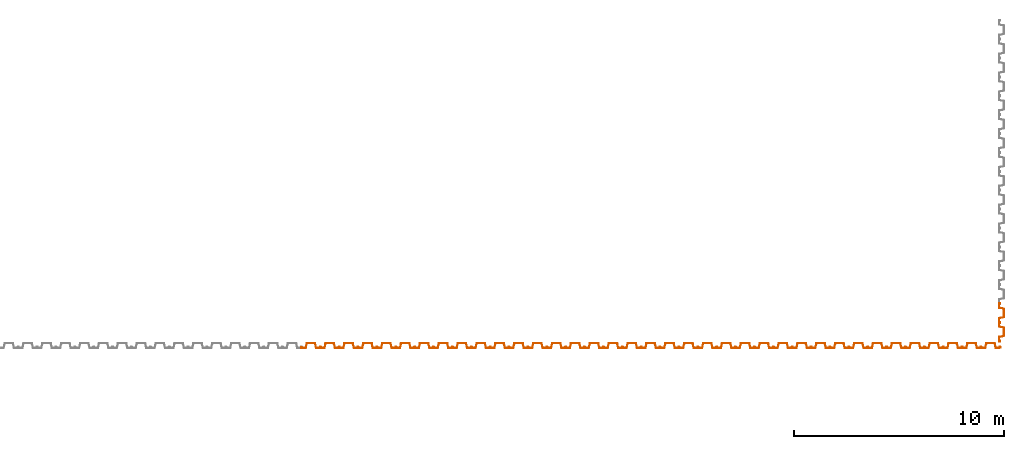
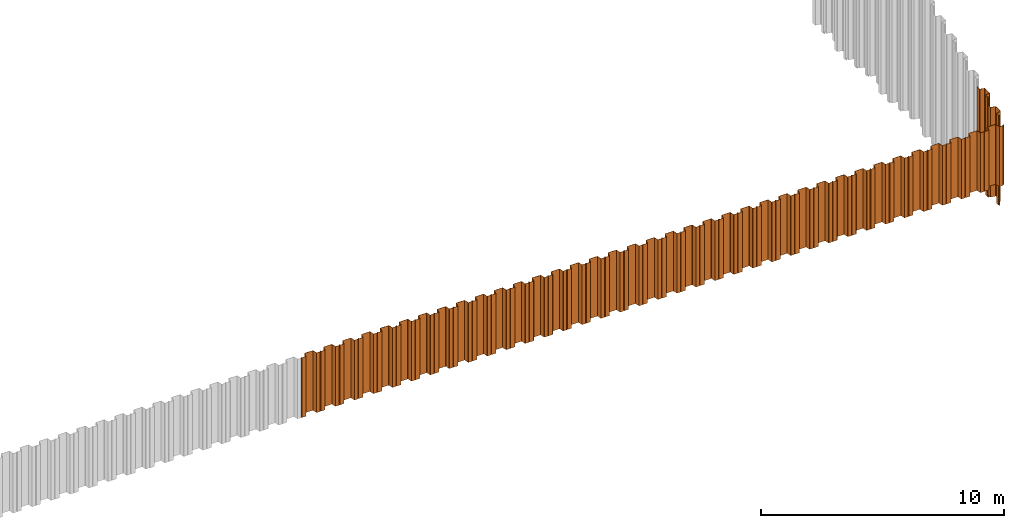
# One storey, part 8 of 12: 39 proxies.
"""IFC2X3 building model written with IfcOpenShell, lengths in millimetres."""

from ifc_helpers import new_model, entity, si_unit, converted_unit, derived_unit, direction, frame, frame_2d, origin, place, context, subcontext, project, spatial, polyline, circle_curve, parameter, trimmed, segment, composite_curve, outline, extrude, source, transform, mapped, material, type_object, type_shapes, element, save


model = new_model("IFC2X3")

# Units and contexts
model_context = context("Model", 3, precision=0.01, world=origin(), true_north=direction((6.12303176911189e-17, 1.0)))
body_context = subcontext(model_context, "Body", "Model", "MODEL_VIEW")
ifc_project = project(units=[si_unit("LENGTHUNIT", "METRE", prefix="MILLI"), si_unit("AREAUNIT", "SQUARE_METRE"), si_unit("VOLUMEUNIT", "CUBIC_METRE"), converted_unit("PLANEANGLEUNIT", "DEGREE", entity("IfcRatioMeasure", 0.0174532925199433), si_unit("PLANEANGLEUNIT", "RADIAN"), dimensions=[0, 0, 0, 0, 0, 0, 0]), si_unit("MASSUNIT", "GRAM", prefix="KILO"), derived_unit("MASSDENSITYUNIT", [(si_unit("MASSUNIT", "GRAM", prefix="KILO"), 1), (si_unit("LENGTHUNIT", "METRE"), -3)]), derived_unit("MOMENTOFINERTIAUNIT", [(si_unit("LENGTHUNIT", "METRE"), 4)]), si_unit("TIMEUNIT", "SECOND"), si_unit("FREQUENCYUNIT", "HERTZ"), si_unit("THERMODYNAMICTEMPERATUREUNIT", "DEGREE_CELSIUS"), derived_unit("THERMALTRANSMITTANCEUNIT", [(si_unit("MASSUNIT", "GRAM", prefix="KILO"), 1), (si_unit("THERMODYNAMICTEMPERATUREUNIT", "KELVIN"), -1), (si_unit("TIMEUNIT", "SECOND"), -3)]), derived_unit("VOLUMETRICFLOWRATEUNIT", [(si_unit("LENGTHUNIT", "METRE"), 3), (si_unit("TIMEUNIT", "SECOND"), -1)]), si_unit("ELECTRICCURRENTUNIT", "AMPERE"), si_unit("ELECTRICVOLTAGEUNIT", "VOLT"), si_unit("POWERUNIT", "WATT"), si_unit("FORCEUNIT", "NEWTON", prefix="KILO"), si_unit("ILLUMINANCEUNIT", "LUX"), si_unit("LUMINOUSFLUXUNIT", "LUMEN"), si_unit("LUMINOUSINTENSITYUNIT", "CANDELA"), derived_unit("USERDEFINED", [(si_unit("MASSUNIT", "GRAM", prefix="KILO"), -1), (si_unit("LENGTHUNIT", "METRE"), -2), (si_unit("TIMEUNIT", "SECOND"), 3), (si_unit("LUMINOUSFLUXUNIT", "LUMEN"), 1)]), derived_unit("LINEARVELOCITYUNIT", [(si_unit("LENGTHUNIT", "METRE"), 1), (si_unit("TIMEUNIT", "SECOND"), -1)]), si_unit("PRESSUREUNIT", "PASCAL"), derived_unit("USERDEFINED", [(si_unit("LENGTHUNIT", "METRE"), -2), (si_unit("MASSUNIT", "GRAM", prefix="KILO"), 1), (si_unit("TIMEUNIT", "SECOND"), -2)]), derived_unit("LINEARFORCEUNIT", [(si_unit("MASSUNIT", "GRAM", prefix="KILO"), 1), (si_unit("LENGTHUNIT", "METRE"), 1), (si_unit("TIMEUNIT", "SECOND"), -2), (si_unit("LENGTHUNIT", "METRE"), -1)]), derived_unit("PLANARFORCEUNIT", [(si_unit("MASSUNIT", "GRAM", prefix="KILO"), 1), (si_unit("LENGTHUNIT", "METRE"), 1), (si_unit("TIMEUNIT", "SECOND"), -2), (si_unit("LENGTHUNIT", "METRE"), -2)])], contexts=[model_context])

# Site, building, storey
site_placement = place(None, origin())
site = spatial("IfcSite", under=ifc_project, at=site_placement, Name="Default", CompositionType="ELEMENT")
building_placement = place(site_placement, origin())
building = spatial("IfcBuilding", under=site, at=building_placement, CompositionType="ELEMENT")
storey_placement = place(building_placement, frame((0.0, 0.0, 10600.0)))
storey = spatial("IfcBuildingStorey", under=building, at=storey_placement, Name="AP+10.600", CompositionType="ELEMENT", Elevation=10600.0)

# Proxies
ifc_material = material(Name="<Unnamed>")
building_element_proxy_type_1 = type_object("IfcBuildingElementProxyType", Name="鋼矢板10H型:鋼矢板10H型", PredefinedType="NOTDEFINED", material=ifc_material)
shared_shape_1 = source(origin(), body_context, "Body", "SweptSolid", [
    extrude(outline(composite_curve([segment(trimmed(circle_curve(frame_2d((85.3662976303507, 306.644432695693), x_axis=(0.422618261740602, 0.906307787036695)), 13.885714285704), [parameter(24.9999999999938)], [parameter(90.0000000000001)], True, "PARAMETER"), True, "CONTINUOUS"), segment(polyline([(72.7815666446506, 312.512789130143), (9.8129512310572, 177.476157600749)]), True, "CONTINUOUS"), segment(trimmed(circle_curve(frame_2d((29.3891994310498, 168.347603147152), x_axis=(0.422618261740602, 0.906307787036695)), 21.6), [parameter(90.0000000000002)], [parameter(168.69006752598)], True, "PARAMETER"), True, "CONTINUOUS"), segment(polyline([(16.598697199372, 150.941769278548), (175.329723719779, 34.2998683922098)]), True, "CONTINUOUS"), segment(trimmed(circle_curve(frame_2d((168.93447260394, 25.596951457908), x_axis=(0.422618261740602, 0.906307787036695)), 10.7999999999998), [parameter(270.0)], [parameter(348.690067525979)], True, "PARAMETER"), False, "CONTINUOUS"), segment(polyline([(178.722596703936, 21.0326742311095), (18.2974003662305, -323.000269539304)]), True, "CONTINUOUS"), segment(trimmed(circle_curve(frame_2d((8.50927626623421, -318.435992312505), x_axis=(0.422618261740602, 0.906307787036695)), 10.8), [parameter(191.30993247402)], [parameter(269.999999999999)], True, "PARAMETER"), False, "CONTINUOUS"), segment(polyline([(5.95324328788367, -328.929166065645), (-185.429973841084, -282.310113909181)]), True, "CONTINUOUS"), segment(trimmed(circle_curve(frame_2d((-190.542039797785, -303.296461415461), x_axis=(0.422618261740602, 0.906307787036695)), 21.6000000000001), [parameter(11.3099324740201)], [parameter(90.0000000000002)], True, "PARAMETER"), True, "CONTINUOUS"), segment(polyline([(-210.118287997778, -294.167906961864), (-290.330886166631, -466.184378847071)]), True, "CONTINUOUS"), segment(trimmed(circle_curve(frame_2d((-270.754637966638, -475.312933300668), x_axis=(0.422618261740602, 0.906307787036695)), 21.6), [parameter(90.0000000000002)], [parameter(269.999999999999)], True, "PARAMETER"), True, "CONTINUOUS"), segment(polyline([(-251.178389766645, -484.441487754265), (-249.065298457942, -479.909948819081)]), True, "CONTINUOUS"), segment(polyline([(-249.065298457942, -479.909948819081), (-258.853422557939, -475.345671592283)]), True, "CONTINUOUS"), segment(polyline([(-258.853422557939, -475.345671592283), (-260.966513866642, -479.877210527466)]), True, "CONTINUOUS"), segment(trimmed(circle_curve(frame_2d((-270.754637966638, -475.312933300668), x_axis=(0.422618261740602, 0.906307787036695)), 10.8), [parameter(90.0000000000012)], [parameter(270.0)], True, "PARAMETER"), False, "CONTINUOUS"), segment(polyline([(-280.542762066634, -470.748656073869), (-200.330163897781, -298.732184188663)]), True, "CONTINUOUS"), segment(trimmed(circle_curve(frame_2d((-190.542039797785, -303.296461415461), x_axis=(0.422618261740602, 0.906307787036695)), 10.8), [parameter(11.3099324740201)], [parameter(89.9999999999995)], True, "PARAMETER"), False, "CONTINUOUS"), segment(polyline([(-187.986006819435, -292.803287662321), (3.39721030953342, -339.422339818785)]), True, "CONTINUOUS"), segment(trimmed(circle_curve(frame_2d((8.50927626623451, -318.435992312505), x_axis=(0.422618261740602, 0.906307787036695)), 21.6), [parameter(191.30993247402)], [parameter(270.0)], True, "PARAMETER"), True, "CONTINUOUS"), segment(polyline([(28.0855244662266, -327.564546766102), (188.510720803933, 16.4683970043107)]), True, "CONTINUOUS"), segment(trimmed(circle_curve(frame_2d((168.93447260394, 25.5969514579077), x_axis=(0.422618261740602, 0.906307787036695)), 21.6), [parameter(270.0)], [parameter(348.69006752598)], True, "PARAMETER"), True, "CONTINUOUS"), segment(polyline([(181.724974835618, 43.0027853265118), (22.9939483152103, 159.644686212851)]), True, "CONTINUOUS"), segment(trimmed(circle_curve(frame_2d((29.3891994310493, 168.347603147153), x_axis=(0.422618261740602, 0.906307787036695)), 10.7999999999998), [parameter(89.9999999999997)], [parameter(168.690067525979)], True, "PARAMETER"), False, "CONTINUOUS"), segment(polyline([(19.6010753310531, 172.911880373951), (82.5696907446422, 307.948511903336)]), True, "CONTINUOUS"), segment(trimmed(circle_curve(frame_2d((85.3662976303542, 306.64443269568), x_axis=(0.422618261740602, 0.906307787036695)), 3.08571428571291), [parameter(25.0000000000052)], [parameter(90.0000000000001)], True, "PARAMETER"), False, "CONTINUOUS"), segment(polyline([(85.3662976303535, 309.730146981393), (122.220231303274, 309.730146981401)]), True, "CONTINUOUS"), segment(trimmed(circle_curve(frame_2d((122.220231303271, 323.615861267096), x_axis=(0.422618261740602, 0.906307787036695)), 13.8857142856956), [parameter(205.000000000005)], [parameter(270.0)], True, "PARAMETER"), True, "CONTINUOUS"), segment(polyline([(134.804962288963, 317.747504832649), (141.079261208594, 331.202782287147)]), True, "CONTINUOUS"), segment(trimmed(circle_curve(frame_2d((121.503013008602, 340.331336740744), x_axis=(0.422618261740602, 0.906307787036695)), 21.6), [parameter(270.0)], [parameter(90.0000000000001)], True, "PARAMETER"), True, "CONTINUOUS"), segment(polyline([(101.926764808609, 349.459891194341), (99.8136734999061, 344.928352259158)]), True, "CONTINUOUS"), segment(polyline([(99.8136734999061, 344.928352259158), (109.601797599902, 340.364075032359)]), True, "CONTINUOUS"), segment(polyline([(109.601797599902, 340.364075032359), (111.714888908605, 344.895613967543)]), True, "CONTINUOUS"), segment(trimmed(circle_curve(frame_2d((121.503013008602, 340.331336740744), x_axis=(0.422618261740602, 0.906307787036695)), 10.8), [parameter(270.0)], [parameter(89.9999999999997)], True, "PARAMETER"), False, "CONTINUOUS"), segment(polyline([(131.291137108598, 335.767059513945), (125.01683818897, 322.311782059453)]), True, "CONTINUOUS"), segment(trimmed(circle_curve(frame_2d((122.220231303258, 323.615861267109), x_axis=(0.422618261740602, 0.906307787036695)), 3.08571428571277), [parameter(204.999999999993)], [parameter(270.0)], True, "PARAMETER"), False, "CONTINUOUS"), segment(polyline([(122.220231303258, 320.530146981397), (85.3662976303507, 320.530146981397)]), True, "CONTINUOUS")], self_intersect=False)), frame((95.205667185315, -48.8888888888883, -3000.0), z_axis=(0.0, 0.0, -1.0), x_axis=(0.4226182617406, 0.906307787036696, 0.0)), (0.0, 0.0, -1.0), 3000.0),
])
type_shapes(building_element_proxy_type_1, [shared_shape_1])
for number, where in (
    (1, (89232.0, -15450.0, -650.0)),
    (2, (88332.0, -15450.0, -650.0)),
    (3, (87432.0, -15450.0, -650.0)),
    (4, (86532.0, -15450.0, -650.0)),
    (5, (85632.0, -15450.0, -650.0)),
    (6, (84732.0, -15450.0, -650.0)),
    (7, (83832.0, -15450.0, -650.0)),
    (8, (82932.0, -15450.0, -650.0)),
    (9, (82032.0, -15450.0, -650.0)),
    (10, (81132.0, -15450.0, -650.0)),
    (11, (80232.0, -15450.0, -650.0)),
    (12, (79332.0, -15450.0, -650.0)),
    (13, (78432.0, -15450.0, -650.0)),
    (14, (77532.0, -15450.0, -650.0)),
    (15, (76632.0, -15450.0, -650.0)),
    (16, (75732.0, -15450.0, -650.0)),
    (17, (74832.0, -15450.0, -650.0)),
    (18, (73932.0, -15450.0, -650.0)),
    (19, (73032.0, -15450.0, -650.0)),
    (20, (72132.0, -15450.0, -650.0)),
    (21, (71232.0, -15450.0, -650.0)),
    (22, (70332.0, -15450.0, -650.0)),
    (23, (69432.0, -15450.0, -650.0)),
    (24, (68532.0, -15450.0, -650.0)),
    (25, (67632.0, -15450.0, -650.0)),
    (26, (66732.0, -15450.0, -650.0)),
    (27, (65832.0, -15450.0, -650.0)),
    (28, (64932.0, -15450.0, -650.0)),
    (29, (64032.0, -15450.0, -650.0)),
    (30, (63132.0, -15450.0, -650.0)),
    (31, (62232.0, -15450.0, -650.0)),
    (32, (61332.0, -15450.0, -650.0)),
    (33, (60432.0, -15450.0, -650.0)),
    (34, (59532.0, -15450.0, -650.0)),
    (35, (58632.0, -15450.0, -650.0)),
    (36, (57732.0, -15450.0, -650.0)),
    (37, (56832.0, -15450.0, -650.0)),
):
    element("IfcBuildingElementProxy", number, at=place(storey_placement, frame(where)), inside=storey, type_object=building_element_proxy_type_1, material=ifc_material, Name="鋼矢板10H型:鋼矢板10H型", ObjectType="鋼矢板10H型:鋼矢板10H型", context=body_context, shape_type="MappedRepresentation", body=[
        mapped(shared_shape_1, transform((0.0, 0.0, 0.0), scale=1.0)),
    ])
building_element_proxy_type_2 = type_object("IfcBuildingElementProxyType", Name="鋼矢板10H型:鋼矢板10H型", PredefinedType="NOTDEFINED", material=ifc_material)
shared_shape_2 = source(origin(), body_context, "Body", "SweptSolid", [
    extrude(outline(composite_curve([segment(trimmed(circle_curve(frame_2d((85.3662976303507, 306.644432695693), x_axis=(0.422618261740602, 0.906307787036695)), 13.885714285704), [parameter(24.9999999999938)], [parameter(90.0000000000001)], True, "PARAMETER"), True, "CONTINUOUS"), segment(polyline([(72.7815666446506, 312.512789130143), (9.8129512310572, 177.476157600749)]), True, "CONTINUOUS"), segment(trimmed(circle_curve(frame_2d((29.3891994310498, 168.347603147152), x_axis=(0.422618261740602, 0.906307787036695)), 21.6), [parameter(90.0000000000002)], [parameter(168.69006752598)], True, "PARAMETER"), True, "CONTINUOUS"), segment(polyline([(16.598697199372, 150.941769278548), (175.329723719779, 34.2998683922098)]), True, "CONTINUOUS"), segment(trimmed(circle_curve(frame_2d((168.93447260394, 25.596951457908), x_axis=(0.422618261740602, 0.906307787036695)), 10.7999999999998), [parameter(270.0)], [parameter(348.690067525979)], True, "PARAMETER"), False, "CONTINUOUS"), segment(polyline([(178.722596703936, 21.0326742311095), (18.2974003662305, -323.000269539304)]), True, "CONTINUOUS"), segment(trimmed(circle_curve(frame_2d((8.50927626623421, -318.435992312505), x_axis=(0.422618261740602, 0.906307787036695)), 10.8), [parameter(191.30993247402)], [parameter(269.999999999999)], True, "PARAMETER"), False, "CONTINUOUS"), segment(polyline([(5.95324328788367, -328.929166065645), (-185.429973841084, -282.310113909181)]), True, "CONTINUOUS"), segment(trimmed(circle_curve(frame_2d((-190.542039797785, -303.296461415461), x_axis=(0.422618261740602, 0.906307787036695)), 21.6000000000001), [parameter(11.3099324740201)], [parameter(90.0000000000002)], True, "PARAMETER"), True, "CONTINUOUS"), segment(polyline([(-210.118287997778, -294.167906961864), (-290.330886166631, -466.184378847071)]), True, "CONTINUOUS"), segment(trimmed(circle_curve(frame_2d((-270.754637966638, -475.312933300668), x_axis=(0.422618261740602, 0.906307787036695)), 21.6), [parameter(90.0000000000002)], [parameter(269.999999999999)], True, "PARAMETER"), True, "CONTINUOUS"), segment(polyline([(-251.178389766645, -484.441487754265), (-249.065298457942, -479.909948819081)]), True, "CONTINUOUS"), segment(polyline([(-249.065298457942, -479.909948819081), (-258.853422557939, -475.345671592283)]), True, "CONTINUOUS"), segment(polyline([(-258.853422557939, -475.345671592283), (-260.966513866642, -479.877210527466)]), True, "CONTINUOUS"), segment(trimmed(circle_curve(frame_2d((-270.754637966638, -475.312933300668), x_axis=(0.422618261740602, 0.906307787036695)), 10.8), [parameter(90.0000000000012)], [parameter(270.0)], True, "PARAMETER"), False, "CONTINUOUS"), segment(polyline([(-280.542762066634, -470.748656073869), (-200.330163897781, -298.732184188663)]), True, "CONTINUOUS"), segment(trimmed(circle_curve(frame_2d((-190.542039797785, -303.296461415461), x_axis=(0.422618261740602, 0.906307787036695)), 10.8), [parameter(11.3099324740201)], [parameter(89.9999999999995)], True, "PARAMETER"), False, "CONTINUOUS"), segment(polyline([(-187.986006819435, -292.803287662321), (3.39721030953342, -339.422339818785)]), True, "CONTINUOUS"), segment(trimmed(circle_curve(frame_2d((8.50927626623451, -318.435992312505), x_axis=(0.422618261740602, 0.906307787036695)), 21.6), [parameter(191.30993247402)], [parameter(270.0)], True, "PARAMETER"), True, "CONTINUOUS"), segment(polyline([(28.0855244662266, -327.564546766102), (188.510720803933, 16.4683970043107)]), True, "CONTINUOUS"), segment(trimmed(circle_curve(frame_2d((168.93447260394, 25.5969514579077), x_axis=(0.422618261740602, 0.906307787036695)), 21.6), [parameter(270.0)], [parameter(348.69006752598)], True, "PARAMETER"), True, "CONTINUOUS"), segment(polyline([(181.724974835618, 43.0027853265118), (22.9939483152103, 159.644686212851)]), True, "CONTINUOUS"), segment(trimmed(circle_curve(frame_2d((29.3891994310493, 168.347603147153), x_axis=(0.422618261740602, 0.906307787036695)), 10.7999999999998), [parameter(89.9999999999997)], [parameter(168.690067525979)], True, "PARAMETER"), False, "CONTINUOUS"), segment(polyline([(19.6010753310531, 172.911880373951), (82.5696907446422, 307.948511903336)]), True, "CONTINUOUS"), segment(trimmed(circle_curve(frame_2d((85.3662976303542, 306.64443269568), x_axis=(0.422618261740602, 0.906307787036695)), 3.08571428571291), [parameter(25.0000000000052)], [parameter(90.0000000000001)], True, "PARAMETER"), False, "CONTINUOUS"), segment(polyline([(85.3662976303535, 309.730146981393), (122.220231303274, 309.730146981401)]), True, "CONTINUOUS"), segment(trimmed(circle_curve(frame_2d((122.220231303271, 323.615861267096), x_axis=(0.422618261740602, 0.906307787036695)), 13.8857142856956), [parameter(205.000000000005)], [parameter(270.0)], True, "PARAMETER"), True, "CONTINUOUS"), segment(polyline([(134.804962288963, 317.747504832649), (141.079261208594, 331.202782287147)]), True, "CONTINUOUS"), segment(trimmed(circle_curve(frame_2d((121.503013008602, 340.331336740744), x_axis=(0.422618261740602, 0.906307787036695)), 21.6), [parameter(270.0)], [parameter(90.0000000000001)], True, "PARAMETER"), True, "CONTINUOUS"), segment(polyline([(101.926764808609, 349.459891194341), (99.8136734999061, 344.928352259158)]), True, "CONTINUOUS"), segment(polyline([(99.8136734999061, 344.928352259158), (109.601797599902, 340.364075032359)]), True, "CONTINUOUS"), segment(polyline([(109.601797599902, 340.364075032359), (111.714888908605, 344.895613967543)]), True, "CONTINUOUS"), segment(trimmed(circle_curve(frame_2d((121.503013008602, 340.331336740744), x_axis=(0.422618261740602, 0.906307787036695)), 10.8), [parameter(270.0)], [parameter(89.9999999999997)], True, "PARAMETER"), False, "CONTINUOUS"), segment(polyline([(131.291137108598, 335.767059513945), (125.01683818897, 322.311782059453)]), True, "CONTINUOUS"), segment(trimmed(circle_curve(frame_2d((122.220231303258, 323.615861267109), x_axis=(0.422618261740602, 0.906307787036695)), 3.08571428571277), [parameter(204.999999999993)], [parameter(270.0)], True, "PARAMETER"), False, "CONTINUOUS"), segment(polyline([(122.220231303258, 320.530146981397), (85.3662976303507, 320.530146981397)]), True, "CONTINUOUS")], self_intersect=False)), frame((95.205667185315, -48.8888888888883, -4500.0), z_axis=(0.0, 0.0, -1.0), x_axis=(0.4226182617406, 0.906307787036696, 0.0)), (0.0, 0.0, -1.0), 4500.0),
])
type_shapes(building_element_proxy_type_2, [shared_shape_2])
proxy_1_placement = place(storey_placement, frame((89754.0, -14795.0, -352.722315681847), z_axis=(0.0, 0.0, 1.0), x_axis=(0.0, -1.0, 0.0)))
element("IfcBuildingElementProxy", 38, at=proxy_1_placement, inside=storey, type_object=building_element_proxy_type_2, material=ifc_material, Name="鋼矢板10H型:鋼矢板10H型", ObjectType="鋼矢板10H型:鋼矢板10H型", context=body_context, shape_type="MappedRepresentation", body=[
    mapped(shared_shape_2, transform((0.0, 0.0, 0.0), scale=1.0)),
])
building_element_proxy_type_3 = type_object("IfcBuildingElementProxyType", Name="鋼矢板10H型:鋼矢板10H型", PredefinedType="NOTDEFINED", material=ifc_material)
shared_shape_3 = source(origin(), body_context, "Body", "SweptSolid", [
    extrude(outline(composite_curve([segment(trimmed(circle_curve(frame_2d((85.3662976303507, 306.644432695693), x_axis=(0.422618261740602, 0.906307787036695)), 13.885714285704), [parameter(24.9999999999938)], [parameter(90.0000000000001)], True, "PARAMETER"), True, "CONTINUOUS"), segment(polyline([(72.7815666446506, 312.512789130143), (9.8129512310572, 177.476157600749)]), True, "CONTINUOUS"), segment(trimmed(circle_curve(frame_2d((29.3891994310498, 168.347603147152), x_axis=(0.422618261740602, 0.906307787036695)), 21.6), [parameter(90.0000000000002)], [parameter(168.69006752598)], True, "PARAMETER"), True, "CONTINUOUS"), segment(polyline([(16.598697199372, 150.941769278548), (175.329723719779, 34.2998683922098)]), True, "CONTINUOUS"), segment(trimmed(circle_curve(frame_2d((168.93447260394, 25.596951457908), x_axis=(0.422618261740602, 0.906307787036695)), 10.7999999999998), [parameter(270.0)], [parameter(348.690067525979)], True, "PARAMETER"), False, "CONTINUOUS"), segment(polyline([(178.722596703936, 21.0326742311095), (18.2974003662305, -323.000269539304)]), True, "CONTINUOUS"), segment(trimmed(circle_curve(frame_2d((8.50927626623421, -318.435992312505), x_axis=(0.422618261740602, 0.906307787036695)), 10.8), [parameter(191.30993247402)], [parameter(269.999999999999)], True, "PARAMETER"), False, "CONTINUOUS"), segment(polyline([(5.95324328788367, -328.929166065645), (-185.429973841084, -282.310113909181)]), True, "CONTINUOUS"), segment(trimmed(circle_curve(frame_2d((-190.542039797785, -303.296461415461), x_axis=(0.422618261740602, 0.906307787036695)), 21.6000000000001), [parameter(11.3099324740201)], [parameter(90.0000000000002)], True, "PARAMETER"), True, "CONTINUOUS"), segment(polyline([(-210.118287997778, -294.167906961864), (-290.330886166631, -466.184378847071)]), True, "CONTINUOUS"), segment(trimmed(circle_curve(frame_2d((-270.754637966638, -475.312933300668), x_axis=(0.422618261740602, 0.906307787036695)), 21.6), [parameter(90.0000000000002)], [parameter(269.999999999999)], True, "PARAMETER"), True, "CONTINUOUS"), segment(polyline([(-251.178389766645, -484.441487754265), (-249.065298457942, -479.909948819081)]), True, "CONTINUOUS"), segment(polyline([(-249.065298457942, -479.909948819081), (-258.853422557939, -475.345671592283)]), True, "CONTINUOUS"), segment(polyline([(-258.853422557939, -475.345671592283), (-260.966513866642, -479.877210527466)]), True, "CONTINUOUS"), segment(trimmed(circle_curve(frame_2d((-270.754637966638, -475.312933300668), x_axis=(0.422618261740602, 0.906307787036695)), 10.8), [parameter(90.0000000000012)], [parameter(270.0)], True, "PARAMETER"), False, "CONTINUOUS"), segment(polyline([(-280.542762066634, -470.748656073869), (-200.330163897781, -298.732184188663)]), True, "CONTINUOUS"), segment(trimmed(circle_curve(frame_2d((-190.542039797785, -303.296461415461), x_axis=(0.422618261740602, 0.906307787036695)), 10.8), [parameter(11.3099324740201)], [parameter(89.9999999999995)], True, "PARAMETER"), False, "CONTINUOUS"), segment(polyline([(-187.986006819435, -292.803287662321), (3.39721030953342, -339.422339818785)]), True, "CONTINUOUS"), segment(trimmed(circle_curve(frame_2d((8.50927626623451, -318.435992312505), x_axis=(0.422618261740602, 0.906307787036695)), 21.6), [parameter(191.30993247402)], [parameter(270.0)], True, "PARAMETER"), True, "CONTINUOUS"), segment(polyline([(28.0855244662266, -327.564546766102), (188.510720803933, 16.4683970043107)]), True, "CONTINUOUS"), segment(trimmed(circle_curve(frame_2d((168.93447260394, 25.5969514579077), x_axis=(0.422618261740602, 0.906307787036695)), 21.6), [parameter(270.0)], [parameter(348.69006752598)], True, "PARAMETER"), True, "CONTINUOUS"), segment(polyline([(181.724974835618, 43.0027853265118), (22.9939483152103, 159.644686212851)]), True, "CONTINUOUS"), segment(trimmed(circle_curve(frame_2d((29.3891994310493, 168.347603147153), x_axis=(0.422618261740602, 0.906307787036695)), 10.7999999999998), [parameter(89.9999999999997)], [parameter(168.690067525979)], True, "PARAMETER"), False, "CONTINUOUS"), segment(polyline([(19.6010753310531, 172.911880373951), (82.5696907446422, 307.948511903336)]), True, "CONTINUOUS"), segment(trimmed(circle_curve(frame_2d((85.3662976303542, 306.64443269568), x_axis=(0.422618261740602, 0.906307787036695)), 3.08571428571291), [parameter(25.0000000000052)], [parameter(90.0000000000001)], True, "PARAMETER"), False, "CONTINUOUS"), segment(polyline([(85.3662976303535, 309.730146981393), (122.220231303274, 309.730146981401)]), True, "CONTINUOUS"), segment(trimmed(circle_curve(frame_2d((122.220231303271, 323.615861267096), x_axis=(0.422618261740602, 0.906307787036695)), 13.8857142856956), [parameter(205.000000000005)], [parameter(270.0)], True, "PARAMETER"), True, "CONTINUOUS"), segment(polyline([(134.804962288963, 317.747504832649), (141.079261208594, 331.202782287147)]), True, "CONTINUOUS"), segment(trimmed(circle_curve(frame_2d((121.503013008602, 340.331336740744), x_axis=(0.422618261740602, 0.906307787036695)), 21.6), [parameter(270.0)], [parameter(90.0000000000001)], True, "PARAMETER"), True, "CONTINUOUS"), segment(polyline([(101.926764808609, 349.459891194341), (99.8136734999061, 344.928352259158)]), True, "CONTINUOUS"), segment(polyline([(99.8136734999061, 344.928352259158), (109.601797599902, 340.364075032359)]), True, "CONTINUOUS"), segment(polyline([(109.601797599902, 340.364075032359), (111.714888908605, 344.895613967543)]), True, "CONTINUOUS"), segment(trimmed(circle_curve(frame_2d((121.503013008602, 340.331336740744), x_axis=(0.422618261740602, 0.906307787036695)), 10.8), [parameter(270.0)], [parameter(89.9999999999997)], True, "PARAMETER"), False, "CONTINUOUS"), segment(polyline([(131.291137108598, 335.767059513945), (125.01683818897, 322.311782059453)]), True, "CONTINUOUS"), segment(trimmed(circle_curve(frame_2d((122.220231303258, 323.615861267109), x_axis=(0.422618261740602, 0.906307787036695)), 3.08571428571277), [parameter(204.999999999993)], [parameter(270.0)], True, "PARAMETER"), False, "CONTINUOUS"), segment(polyline([(122.220231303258, 320.530146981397), (85.3662976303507, 320.530146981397)]), True, "CONTINUOUS")], self_intersect=False)), frame((95.205667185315, -48.8888888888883, -5000.0), z_axis=(0.0, 0.0, -1.0), x_axis=(0.4226182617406, 0.906307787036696, 0.0)), (0.0, 0.0, -1.0), 5000.0),
])
type_shapes(building_element_proxy_type_3, [shared_shape_3])
proxy_2_placement = place(storey_placement, frame((89754.0, -13895.0, 15.1526843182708), z_axis=(0.0, 0.0, 1.0), x_axis=(0.0, -1.0, 0.0)))
element("IfcBuildingElementProxy", 39, at=proxy_2_placement, inside=storey, type_object=building_element_proxy_type_3, material=ifc_material, Name="鋼矢板10H型:鋼矢板10H型", ObjectType="鋼矢板10H型:鋼矢板10H型", context=body_context, shape_type="MappedRepresentation", body=[
    mapped(shared_shape_3, transform((0.0, 0.0, 0.0), scale=1.0)),
])

save(model, "model.ifc")
